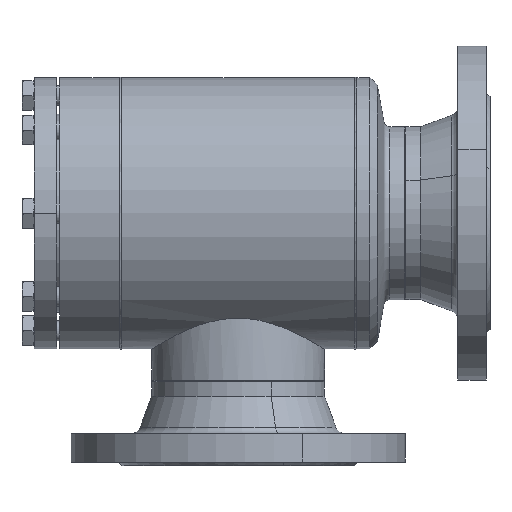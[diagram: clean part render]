
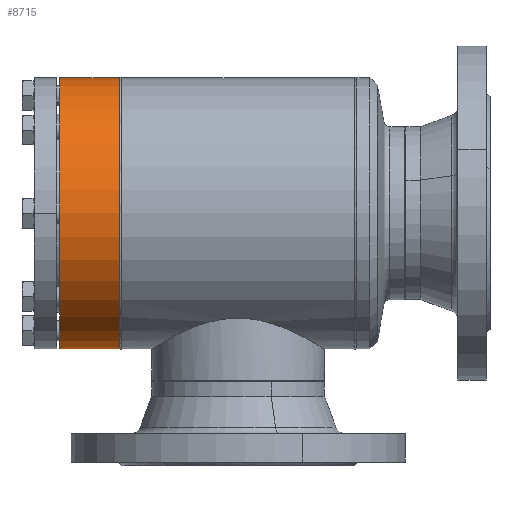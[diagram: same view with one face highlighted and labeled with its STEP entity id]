
A CAD part, left-side view. The second image highlights one B-rep face of the part: STEP entity #8715.
In plain terms, the highlighted cylindrical face has radius 109.5 mm (diameter 219 mm), a partial arc.
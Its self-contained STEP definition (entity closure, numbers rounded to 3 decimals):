
#107 = VERTEX_POINT ( 'NONE', #5006 ) ;
#208 = CARTESIAN_POINT ( 'NONE',  ( 0., 0., -109.5 ) ) ;
#286 = VERTEX_POINT ( 'NONE', #5191 ) ;
#424 = LINE ( 'NONE', #425, #432 ) ;
#425 = CARTESIAN_POINT ( 'NONE',  ( 0., -48., -109.5 ) ) ;
#432 = VECTOR ( 'NONE', #433, 1000. ) ;
#433 = DIRECTION ( 'NONE',  ( 0., 1., 0. ) ) ;
#509 = CIRCLE ( 'NONE', #510, 109.5 ) ;
#510 = AXIS2_PLACEMENT_3D ( 'NONE', #511, #512, #513 ) ;
#511 = CARTESIAN_POINT ( 'NONE',  ( 0., 0., 0. ) ) ;
#512 = DIRECTION ( 'NONE',  ( 0., 1., 0. ) ) ;
#513 = DIRECTION ( 'NONE',  ( 0., 0., 1. ) ) ;
#1334 = FACE_OUTER_BOUND ( 'NONE', #8659, .T. ) ;
#1335 = CYLINDRICAL_SURFACE ( 'NONE', #1336, 109.5 ) ;
#1336 = AXIS2_PLACEMENT_3D ( 'NONE', #1337, #1338, #1339 ) ;
#1337 = CARTESIAN_POINT ( 'NONE',  ( 0., -48., 0. ) ) ;
#1338 = DIRECTION ( 'NONE',  ( 0., 1., 0. ) ) ;
#1339 = DIRECTION ( 'NONE',  ( 0., 0., 1. ) ) ;
#1706 = CIRCLE ( 'NONE', #1707, 109.5 ) ;
#1707 = AXIS2_PLACEMENT_3D ( 'NONE', #1708, #1709, #1710 ) ;
#1708 = CARTESIAN_POINT ( 'NONE',  ( 0., -48., 0. ) ) ;
#1709 = DIRECTION ( 'NONE',  ( 0., 1., 0. ) ) ;
#1710 = DIRECTION ( 'NONE',  ( 0., 0., 1. ) ) ;
#2863 = CARTESIAN_POINT ( 'NONE',  ( 0., 0., 109.5 ) ) ;
#3024 = LINE ( 'NONE', #3025, #3026 ) ;
#3025 = CARTESIAN_POINT ( 'NONE',  ( 0., -48., 109.5 ) ) ;
#3026 = VECTOR ( 'NONE', #3027, 1000. ) ;
#3027 = DIRECTION ( 'NONE',  ( 0., 1., 0. ) ) ;
#4163 = VERTEX_POINT ( 'NONE', #2863 ) ;
#4179 = EDGE_CURVE ( 'NONE', #286, #4163, #3024, .T. ) ;
#4899 = ORIENTED_EDGE ( 'NONE', *, *, #8006, .F. ) ;
#4939 = EDGE_CURVE ( 'NONE', #107, #286, #1706, .T. ) ;
#4972 = ORIENTED_EDGE ( 'NONE', *, *, #4939, .T. ) ;
#5006 = CARTESIAN_POINT ( 'NONE',  ( 0., -48., -109.5 ) ) ;
#5136 = ORIENTED_EDGE ( 'NONE', *, *, #8007, .F. ) ;
#5191 = CARTESIAN_POINT ( 'NONE',  ( 0., -48., 109.5 ) ) ;
#5594 = ORIENTED_EDGE ( 'NONE', *, *, #4179, .T. ) ;
#7791 = VERTEX_POINT ( 'NONE', #208 ) ;
#8006 = EDGE_CURVE ( 'NONE', #107, #7791, #424, .T. ) ;
#8007 = EDGE_CURVE ( 'NONE', #7791, #4163, #509, .T. ) ;
#8659 = EDGE_LOOP ( 'NONE', ( #4899, #4972, #5594, #5136 ) ) ;
#8715 = ADVANCED_FACE ( 'NONE', ( #1334 ), #1335, .T. ) ;
